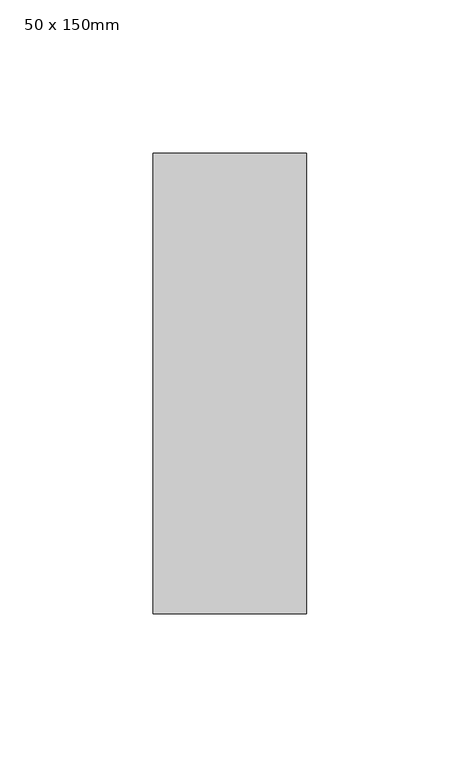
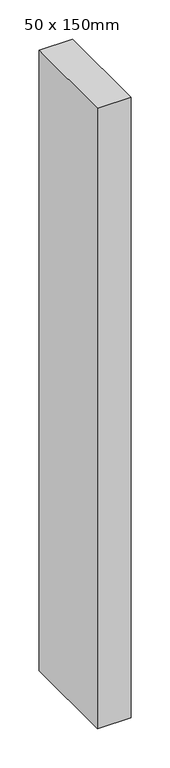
"""IFC4 building model written with IfcOpenShell, lengths in millimetres: member geometry, Прямоугольный импост : 50 x 150mm."""

from ifc_helpers import new_model, si_unit, frame, origin, place, context, project, spatial, polyline, outline, extrude, source, transform, mapped, element, save


def member_50_x_150mm_1a9b1a24(model_context):
    return source(origin(), model_context, "Body", "SweptSolid", [
        extrude(outline(polyline([(0.0, 75.0), (0.0, -75.0), (-50.0, -75.0), (-50.0, 75.0), (0.0, 75.0)])), frame((0.0, 0.0, -970.0), z_axis=(0.0, 0.0, 1.0), x_axis=(1.0, 0.0, 0.0)), (0.0, 0.0, 1.0), 970.0),
    ])


if __name__ == "__main__":
    model = new_model("IFC4")
    model_context = context("Model", 3, world=origin())
    ifc_project = project(units=[si_unit("LENGTHUNIT", "METRE", prefix="MILLI")], contexts=[model_context])
    site = spatial("IfcSite", under=ifc_project)
    building = spatial("IfcBuilding", under=site)
    placement = place(None, origin())
    member_50_x_150mm_shape = member_50_x_150mm_1a9b1a24(model_context)
    element("IfcMember", 1, ObjectType="Прямоугольный импост : 50 x 150mm", at=placement, inside=building, context=model_context, shape_type="MappedRepresentation", body=[
        mapped(member_50_x_150mm_shape, transform((0.0, 0.0, 0.0), x_axis=(1.0, 0.0, 0.0), y_axis=(0.0, 1.0, 0.0), z_axis=(0.0, 0.0, 1.0))),
    ])
    save(model, "model.ifc")
